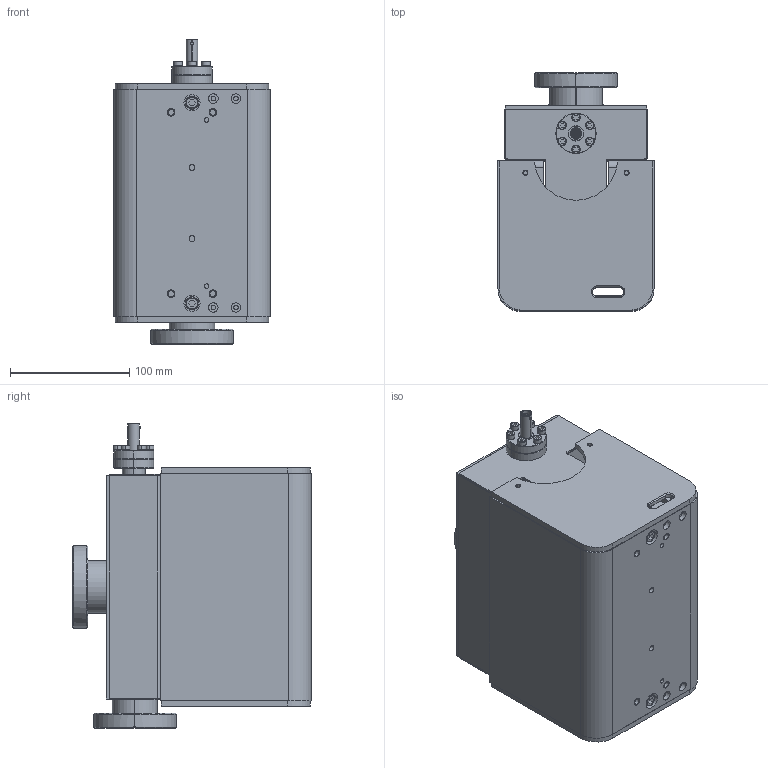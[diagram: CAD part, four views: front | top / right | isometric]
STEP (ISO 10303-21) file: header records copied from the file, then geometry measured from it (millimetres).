
FILE_DESCRIPTION((''),'2;1');
FILE_NAME('45S-XX-2D-XX','2020-12-02T12:09:20',('langebj'),('Gamma Vacuum, LLC'),'CREO PARAMETRIC BY PTC INC, 2020044','CREO PARAMETRIC BY PTC INC, 2020044','');
FILE_SCHEMA(('AUTOMOTIVE_DESIGN { 1 0 10303 214 1 1 1 1 }'));
Products named in the file (1): 45S-XX-2D-XX
Bounding box: 131.2 x 200.41 x 255.83 mm (x, y, z)
Surface area: 495819.8 mm2 (no closed solid volume)
Topology: 0 solids, 0 shells, 1029 faces, 5054 edges, 5020 vertices
Faces by surface type: cylinder 416, plane 371, cone 196, torus 44, sphere 2
Entity records: 74726 total; most frequent: CARTESIAN_POINT 18280, DIRECTION 9739, TRIMMED_CURVE 6536, VECTOR 5408, LINE 5408, DEFINITIONAL_REPRESENTATION 4988, PCURVE 4988, COMPOSITE_CURVE_SEGMENT 4988
